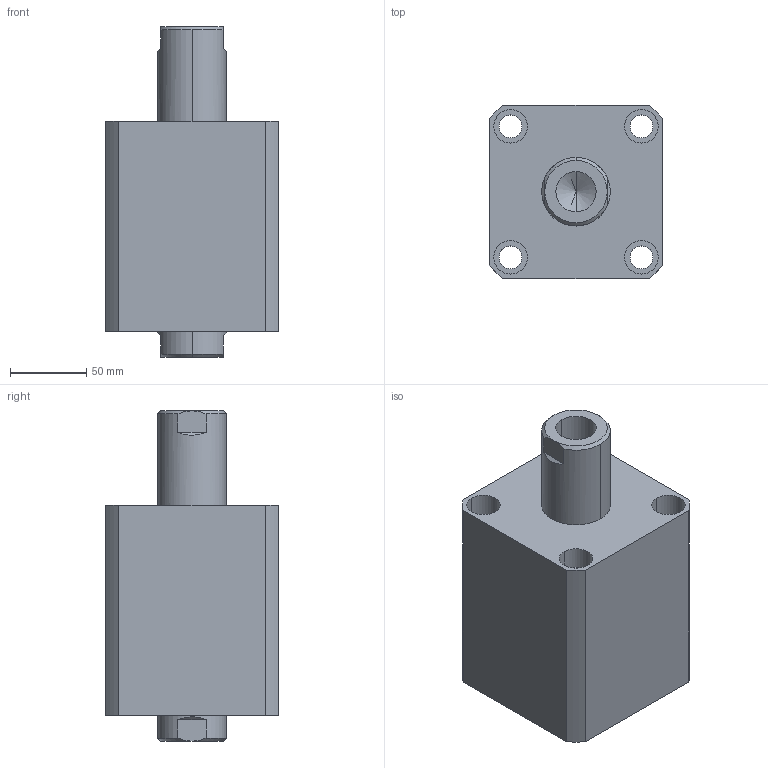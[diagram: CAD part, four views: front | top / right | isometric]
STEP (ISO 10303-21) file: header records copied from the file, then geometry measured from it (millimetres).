
FILE_DESCRIPTION (( 'STEP AP214' ), '1' );
FILE_NAME ('chtb-sw80x45n_asm.STEP', '2018-05-28T00:48:08', ( 'Windows' ), ( 'Microsoft' ), 'SwSTEP 2.0', 'SolidWorks 2015', '' );
FILE_SCHEMA (( 'AUTOMOTIVE_DESIGN' ));
Length unit declared in the file: millimetre
Products named in the file (4): CHTB-SW80X45NBT; CHTB-SD80X45NHSG; CHTB-SD80QG; chtb-sw80x45n_asm
Assembly tree (3 placements, depth 2):
  chtb-sw80x45n_asm
    CHTB-SD80QG
    CHTB-SD80X45NHSG
    CHTB-SW80X45NBT
Bounding box: 114 x 114 x 217 mm (x, y, z)
Volume: 1555729.6 mm3; surface area: 221824.6 mm2
Topology: 3 solids, 3 shells, 208 faces, 550 edges, 365 vertices
Faces by surface type: cylinder 109, plane 42, cone 25, torus 18, bspline 14
Entity records: 15645 total; most frequent: CARTESIAN_POINT 10539, ORIENTED_EDGE 1084, DIRECTION 970, EDGE_CURVE 542, AXIS2_PLACEMENT_3D 407, VERTEX_POINT 365, EDGE_LOOP 249, ADVANCED_FACE 208
